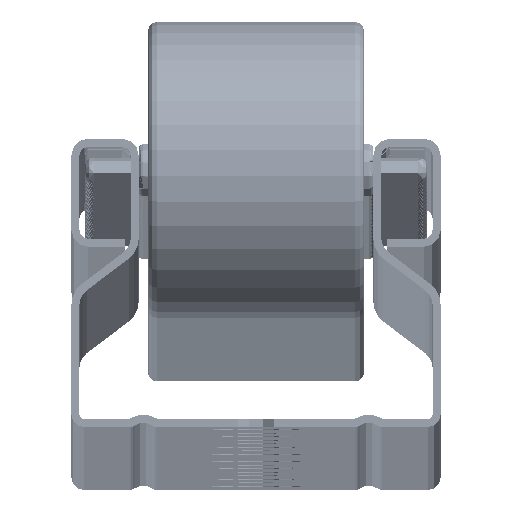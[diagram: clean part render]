
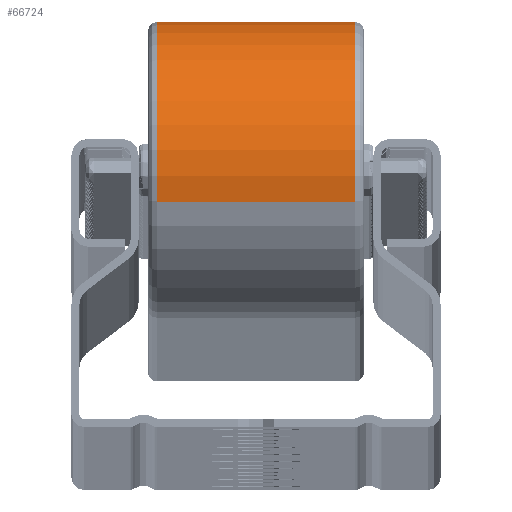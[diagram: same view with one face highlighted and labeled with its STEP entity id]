
A CAD part, top view. The second image highlights one B-rep face of the part: STEP entity #66724.
In plain terms, the highlighted cylindrical face has radius 16.5 mm (diameter 33 mm), a partial arc.
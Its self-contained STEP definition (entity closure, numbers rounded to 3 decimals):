
#189 = CARTESIAN_POINT ( 'NONE',  ( 16.5, 0., 23. ) ) ;
#4696 = DIRECTION ( 'NONE',  ( 0., 0., -1. ) ) ;
#6460 = DIRECTION ( 'NONE',  ( 1., 0., 0. ) ) ;
#6907 = CARTESIAN_POINT ( 'NONE',  ( -16.5, 0., 23. ) ) ;
#8463 = CYLINDRICAL_SURFACE ( 'NONE', #123400, 16.5 ) ;
#10009 = AXIS2_PLACEMENT_3D ( 'NONE', #94890, #126214, #6460 ) ;
#10413 = ORIENTED_EDGE ( 'NONE', *, *, #43459, .T. ) ;
#10754 = ORIENTED_EDGE ( 'NONE', *, *, #97018, .T. ) ;
#11859 = EDGE_CURVE ( 'NONE', #93654, #64477, #71679, .T. ) ;
#14219 = CARTESIAN_POINT ( 'NONE',  ( -16.5, 0., 24. ) ) ;
#16746 = VECTOR ( 'NONE', #4696, 1000. ) ;
#20644 = DIRECTION ( 'NONE',  ( 0., 0., -1. ) ) ;
#26588 = CARTESIAN_POINT ( 'NONE',  ( 0., 0., 1. ) ) ;
#27462 = DIRECTION ( 'NONE',  ( 1., 0., 0. ) ) ;
#32988 = LINE ( 'NONE', #120369, #106328 ) ;
#42147 = CARTESIAN_POINT ( 'NONE',  ( -16.5, 0., 1. ) ) ;
#43190 = CARTESIAN_POINT ( 'NONE',  ( 0., 0., 24. ) ) ;
#43459 = EDGE_CURVE ( 'NONE', #94441, #69113, #94409, .T. ) ;
#63264 = DIRECTION ( 'NONE',  ( 0., 0., -1. ) ) ;
#63480 = LINE ( 'NONE', #14219, #16746 ) ;
#64477 = VERTEX_POINT ( 'NONE', #69862 ) ;
#66724 = ADVANCED_FACE ( 'NONE', ( #116025 ), #8463, .T. ) ;
#68308 = EDGE_CURVE ( 'NONE', #94441, #64477, #32988, .T. ) ;
#69113 = VERTEX_POINT ( 'NONE', #6907 ) ;
#69862 = CARTESIAN_POINT ( 'NONE',  ( 16.5, 0., 1. ) ) ;
#71679 = CIRCLE ( 'NONE', #120151, 16.5 ) ;
#77136 = DIRECTION ( 'NONE',  ( 0., 0., 1. ) ) ;
#88672 = EDGE_LOOP ( 'NONE', ( #102656, #10413, #10754, #119922 ) ) ;
#93654 = VERTEX_POINT ( 'NONE', #42147 ) ;
#94409 = CIRCLE ( 'NONE', #10009, 16.5 ) ;
#94441 = VERTEX_POINT ( 'NONE', #189 ) ;
#94890 = CARTESIAN_POINT ( 'NONE',  ( 0., 0., 23. ) ) ;
#97018 = EDGE_CURVE ( 'NONE', #69113, #93654, #63480, .T. ) ;
#102656 = ORIENTED_EDGE ( 'NONE', *, *, #68308, .F. ) ;
#103781 = DIRECTION ( 'NONE',  ( -1., 0., 0. ) ) ;
#106328 = VECTOR ( 'NONE', #20644, 1000. ) ;
#116025 = FACE_OUTER_BOUND ( 'NONE', #88672, .T. ) ;
#119922 = ORIENTED_EDGE ( 'NONE', *, *, #11859, .T. ) ;
#120151 = AXIS2_PLACEMENT_3D ( 'NONE', #26588, #77136, #27462 ) ;
#120369 = CARTESIAN_POINT ( 'NONE',  ( 16.5, 0., 24. ) ) ;
#123400 = AXIS2_PLACEMENT_3D ( 'NONE', #43190, #63264, #103781 ) ;
#126214 = DIRECTION ( 'NONE',  ( 0., 0., -1. ) ) ;
